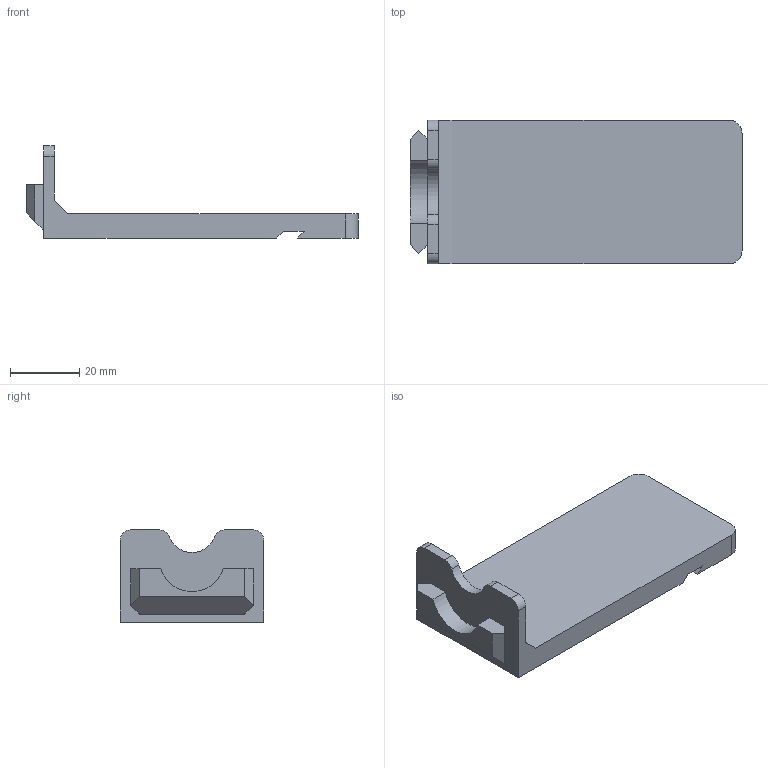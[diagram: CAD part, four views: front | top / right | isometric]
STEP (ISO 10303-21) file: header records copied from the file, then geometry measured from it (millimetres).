
FILE_DESCRIPTION(/* description */ ('','CAx-IF Rec.Pracs.---Representation and Presentation of Product Manufacturing Information (PMI)---4.0---2014-10-13'),/* implementation_level */ '2;1');
FILE_NAME(/* name */ 'Goews 1x Hanger Shelf 2x.step',/* time_stamp */ '2024-11-28T18:03:36-05:00',/* author */ (''),/* organization */ (''),/* preprocessor_version */ 'ST-DEVELOPER v20',/* originating_system */ 'Autodesk Translation Framework v13.20.0.188',/* authorisation */ '');
FILE_SCHEMA (('AP242_MANAGED_MODEL_BASED_3D_ENGINEERING_MIM_LF { 1 0 10303 442 1 1 4 }'));
Length unit declared in the file: millimetre
Products named in the file (1): Goews 1x Hanger Shelf 2x
Bounding box: 96.15 x 41.6 x 26.72 mm (x, y, z)
Volume: 29889.8 mm3; surface area: 11578.8 mm2
Topology: 1 solids, 1 shells, 33 faces, 88 edges, 58 vertices
Faces by surface type: plane 25, cylinder 8
Entity records: 1055 total; most frequent: CARTESIAN_POINT 180, ORIENTED_EDGE 176, DIRECTION 172, EDGE_CURVE 88, LINE 72, VECTOR 72, VERTEX_POINT 58, AXIS2_PLACEMENT_3D 50
